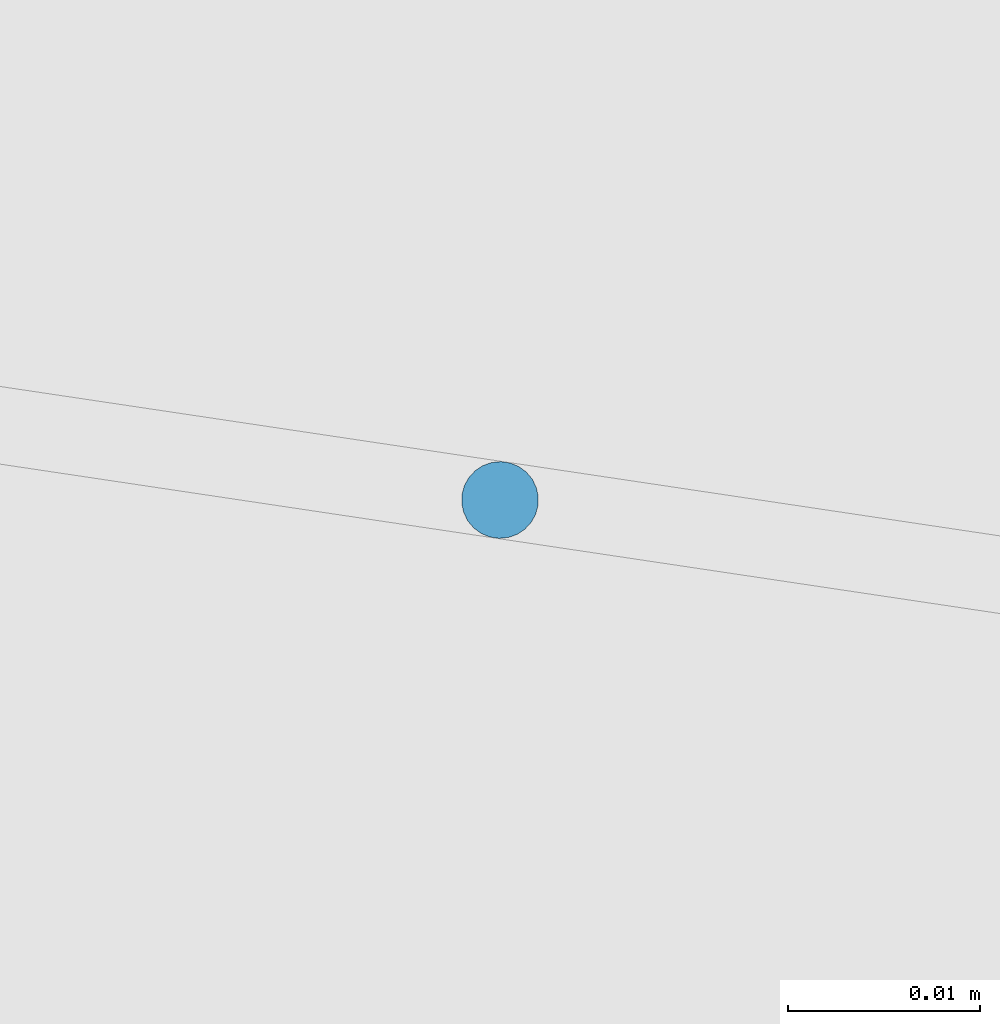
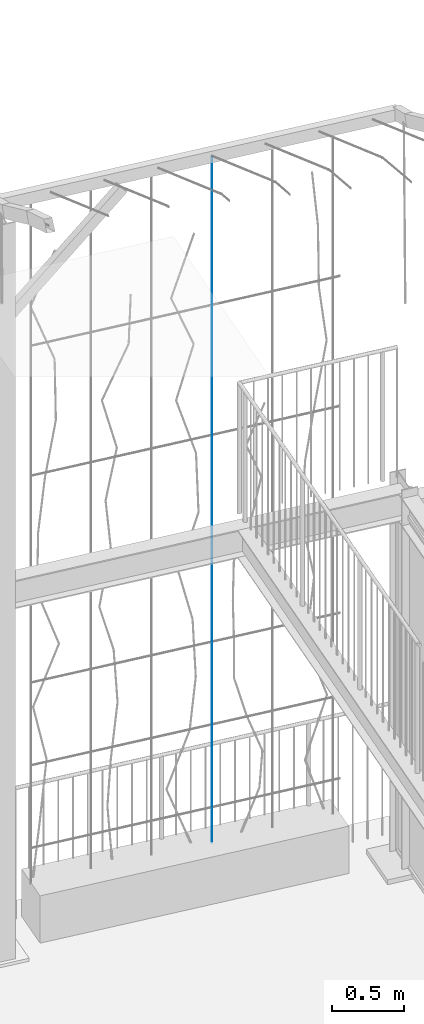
# One storey, part 42 of 142: 1 member, 1 element without a shape of its own.
"""IFC4 building model written with IfcOpenShell, lengths in metres."""

from ifc_helpers import new_model, si_unit, direction, frame, origin_with_axes, place, context, subcontext, project, spatial, circle, extrude, material, material_profile, profile_set, profile_usage, type_object, element, aggregate, save


model = new_model("IFC4")

# Units and contexts
model_context = context("Model", 3, precision=1e-05, world=origin_with_axes(), true_north=direction((0.0, 1.0)))
body_context = subcontext(model_context, "Body", "Model", "MODEL_VIEW")
ifc_project = project(units=[si_unit("AREAUNIT", "SQUARE_METRE"), si_unit("VOLUMEUNIT", "CUBIC_METRE"), si_unit("LENGTHUNIT", "METRE")], contexts=[model_context])

# Site, building, storey
site_placement = place(None, origin_with_axes())
site = spatial("IfcSite", under=ifc_project, at=site_placement, Name="Lares · Rua das Mercês · artigo 4771")
building_placement = place(site_placement, frame((15.0, 9.7, 14.65), z_axis=(0.0, 0.0, 1.0), x_axis=(0.989015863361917, -0.147809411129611, 0.0)))
building = spatial("IfcBuilding", under=site, at=building_placement, Name="Casa Sobreposta")
storey_placement = place(building_placement, origin_with_axes())
storey = spatial("IfcBuildingStorey", under=building, at=storey_placement, Name="00 · Habitação e estacionamento", Elevation=14.65)

# Assembly, member
assembly_placement = place(storey_placement, origin_with_axes())
assembly = element("IfcElementAssembly", 1, at=assembly_placement, inside=storey, Name="Fachada sul e pátio · estrutura e trepadeiras", ObjectType="LIVING_SHADE_TRELLIS", PredefinedType="USERDEFINED")
ifc_material = material(Name="Aço galvanizado / Stahl verzinkt", Category="steel")
ifc_material_profile = material_profile(ifc_material, circle(Radius=0.002))
ifc_profile_set = profile_set([ifc_material_profile], Name="D0.004")
ifc_profile_usage = profile_usage(ifc_profile_set)
member_type = type_object("IfcMemberType", Name="D0.004 / galvanized", PredefinedType="NOTDEFINED", material=ifc_profile_set)
member_placement = place(assembly_placement, frame((-1.35, 6.48, 0.35), z_axis=(0.0, 0.0, 1.0), x_axis=(1.0, 0.0, 0.0)))
member = element("IfcMember", 2, at=member_placement, type_object=member_type, material=ifc_profile_usage, Name="Trepadeiras · fio vertical", context=body_context, shape_type="SweptSolid", body=[
    extrude(circle(Radius=0.002), origin_with_axes(), (0.0, 0.0, 1.0), 5.8),
])
aggregate(assembly, [member])

save(model, "model.ifc")
